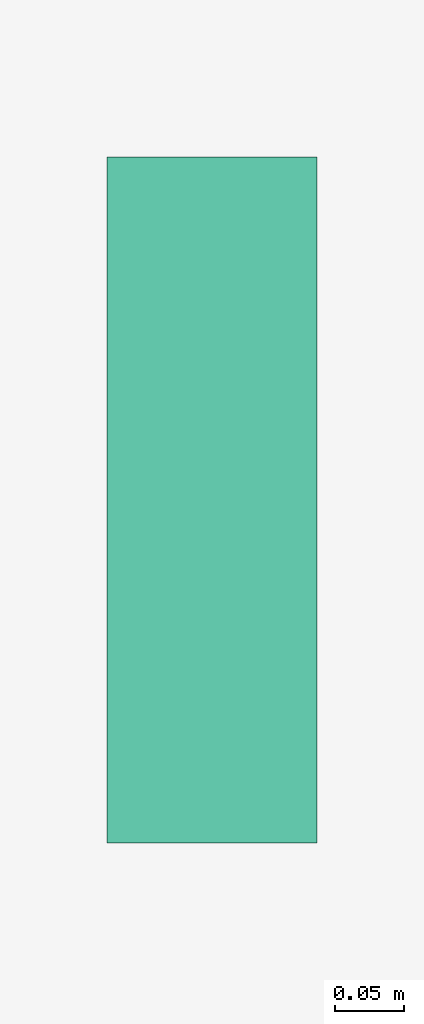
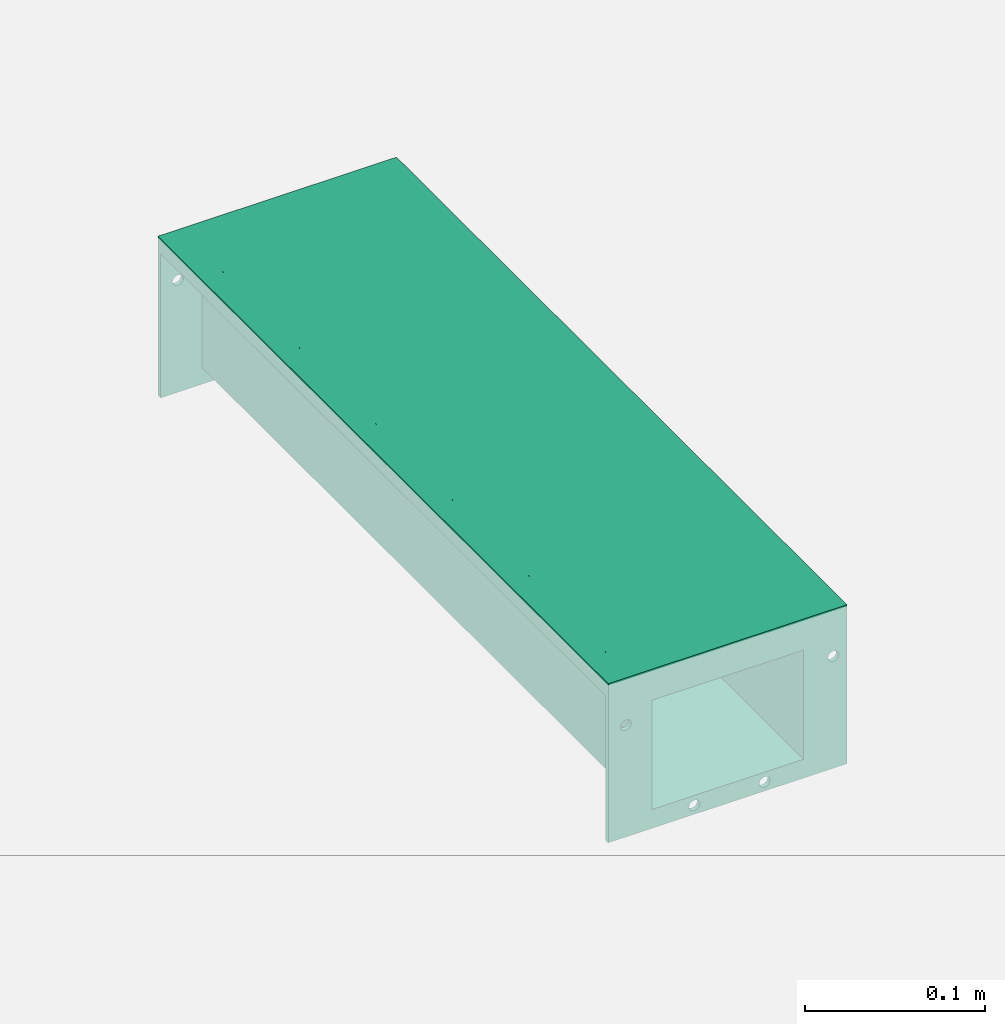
# One storey, part 2 of 2: 1 flow terminal.
"""IFC2X3 building model written with IfcOpenShell, lengths in millimetres."""

from ifc_helpers import new_model, entity, si_unit, converted_unit, direction, frame, frame_2d, origin, origin_2d_with_axis, place, context, subcontext, project, spatial, polyline, circle_curve, parameter, trimmed, segment, composite_curve, rectangle, outline, extrude, source, transform, mapped, material, material_list, element, save


model = new_model("IFC2X3")

# Units and contexts
model_context = context("Model", 3, precision=1e-06, world=origin(), true_north=direction((2.0, 6.12303176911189e-17, 1.0)))
context_of_model = context(None, 3, precision=1e-06, world=origin(), true_north=direction((2.0, 6.12303176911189e-17, 1.0)))
body_context = subcontext(model_context, "Body", "Model", "MODEL_VIEW")
ifc_project = project(units=[si_unit("LENGTHUNIT", "METRE", prefix="MILLI"), si_unit("AREAUNIT", "SQUARE_METRE", prefix="MILLI"), si_unit("VOLUMEUNIT", "CUBIC_METRE", prefix="MILLI"), converted_unit("PLANEANGLEUNIT", "DEGREE", entity("IfcRatioMeasure", 0.0174532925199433), si_unit("PLANEANGLEUNIT", "RADIAN"), dimensions=[0, 0, 0, 0, 0, 0, 0]), si_unit("TIMEUNIT", "SECOND")], contexts=[model_context, context_of_model])

# Site, building, storey
site_placement = place(None, origin())
site = spatial("IfcSite", under=ifc_project, at=site_placement, Name="Default", CompositionType="ELEMENT")
building_placement = place(site_placement, origin())
building = spatial("IfcBuilding", under=site, at=building_placement, CompositionType="ELEMENT")
storey_placement = place(building_placement, origin())
storey = spatial("IfcBuildingStorey", under=building, at=storey_placement, Name="Level 1", CompositionType="ELEMENT", Elevation=0.0)

# Flow terminal
ifc_material_1 = material(Name="Stainless Steel AISI 304")
ifc_material_2 = material(Name="Polystyrene, High Impact (F)")
ifc_material_list = material_list([ifc_material_1, ifc_material_2])
shared_shape = source(origin(), body_context, "Body", "SweptSolid", [
    extrude(rectangle(XDim=500.0, YDim=124.999917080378, at=origin_2d_with_axis()), frame((4.14598109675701e-05, 250.0, -21.0), z_axis=(0.0, 0.0, 1.0), x_axis=(0.0, 1.0, 0.0)), (0.0, 0.0, 1.0), 20.9999999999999),
    extrude(outline(polyline([(-76.5000276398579, -40.8000000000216), (-62.4999447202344, -40.8000000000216), (-62.4999447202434, -19.8000000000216), (-48.4999447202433, -19.8000000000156), (-48.499944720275, 54.1999999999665), (48.4999723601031, 54.200000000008), (48.4999723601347, -19.7999999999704), (62.4999723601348, -19.7999999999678), (62.4999723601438, -40.7999999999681), (76.4999723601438, -40.7999999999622), (76.4999723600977, 67.0), (-76.500027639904, 67.0), (-76.5000276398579, -40.8000000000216)]), holes=[composite_curve([segment(trimmed(circle_curve(frame_2d((67.7349848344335, -8.90142745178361), x_axis=(1.0, 0.0)), 3.5), [parameter(0.0)], [parameter(180.0)], True, "PARAMETER"), False, "CONTINUOUS"), segment(trimmed(circle_curve(frame_2d((67.7349848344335, -8.9014274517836), x_axis=(1.0, 0.0)), 3.5), [parameter(180.0)], [parameter(360.0)], True, "PARAMETER"), False, "CONTINUOUS")], self_intersect=False), composite_curve([segment(trimmed(circle_curve(frame_2d((23.7349848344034, 60.9218749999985), x_axis=(1.0, 0.0)), 3.5), [parameter(0.0)], [parameter(180.0)], True, "PARAMETER"), False, "CONTINUOUS"), segment(trimmed(circle_curve(frame_2d((23.7349848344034, 60.9218749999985), x_axis=(1.0, 0.0)), 3.5), [parameter(180.0)], [parameter(360.0)], True, "PARAMETER"), False, "CONTINUOUS")], self_intersect=False), composite_curve([segment(trimmed(circle_curve(frame_2d((-21.2650151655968, 60.921874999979), x_axis=(1.0, 0.0)), 3.5), [parameter(179.999999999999)], [parameter(360.0)], True, "PARAMETER"), False, "CONTINUOUS"), segment(trimmed(circle_curve(frame_2d((-21.2650151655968, 60.921874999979), x_axis=(1.0, 0.0)), 3.5), [parameter(360.0)], [parameter(180.0)], True, "PARAMETER"), False, "CONTINUOUS")], self_intersect=False), composite_curve([segment(trimmed(circle_curve(frame_2d((-65.2650151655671, -8.90142745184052), x_axis=(1.0, 0.0)), 3.5), [parameter(179.999999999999)], [parameter(360.0)], True, "PARAMETER"), False, "CONTINUOUS"), segment(trimmed(circle_curve(frame_2d((-65.2650151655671, -8.90142745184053), x_axis=(1.0, 0.0)), 3.5), [parameter(0.0)], [parameter(180.0)], True, "PARAMETER"), False, "CONTINUOUS")], self_intersect=False)]), frame((2.7639875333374e-05, 497.0, -40.8000000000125), z_axis=(0.0, 1.0, 0.0), x_axis=(1.0, 0.0, 0.0)), (0.0, 0.0, 1.0), 2.99999999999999),
    extrude(outline(polyline([(-76.4999585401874, -40.80000137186), (-62.4999585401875, -40.80000137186), (-62.4999585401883, -19.8000013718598), (-48.4999585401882, -19.8000013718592), (-48.4999585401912, 54.1999986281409), (48.4999585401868, 54.1999986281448), (48.4999585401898, -19.8000013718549), (62.4999585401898, -19.8000013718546), (62.4999585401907, -40.800001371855), (76.4999585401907, -40.8000013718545), (76.4999585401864, 67.0000068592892), (-76.4999585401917, 67.0000068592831), (-76.4999585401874, -40.80000137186)]), holes=[composite_curve([segment(trimmed(circle_curve(frame_2d((67.7349710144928, -8.9014288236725), x_axis=(1.0, 0.0)), 3.5), [parameter(0.0)], [parameter(180.0)], True, "PARAMETER"), False, "CONTINUOUS"), segment(trimmed(circle_curve(frame_2d((67.7349710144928, -8.90142882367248), x_axis=(1.0, 0.0)), 3.5), [parameter(180.0)], [parameter(0.0)], True, "PARAMETER"), False, "CONTINUOUS")], self_intersect=False), composite_curve([segment(trimmed(circle_curve(frame_2d((23.7349710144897, 60.9218818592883), x_axis=(1.0, 0.0)), 3.5), [parameter(0.0)], [parameter(180.0)], True, "PARAMETER"), False, "CONTINUOUS"), segment(trimmed(circle_curve(frame_2d((23.7349710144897, 60.9218818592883), x_axis=(1.0, 0.0)), 3.5), [parameter(180.0)], [parameter(359.999999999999)], True, "PARAMETER"), False, "CONTINUOUS")], self_intersect=False), composite_curve([segment(trimmed(circle_curve(frame_2d((-21.2650289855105, 60.9218818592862), x_axis=(1.0, 0.0)), 3.5), [parameter(180.0)], [parameter(360.0)], True, "PARAMETER"), False, "CONTINUOUS"), segment(trimmed(circle_curve(frame_2d((-21.2650289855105, 60.9218818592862), x_axis=(1.0, 0.0)), 3.5), [parameter(360.0)], [parameter(180.0)], True, "PARAMETER"), False, "CONTINUOUS")], self_intersect=False), composite_curve([segment(trimmed(circle_curve(frame_2d((-65.2650289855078, -8.90142882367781), x_axis=(1.0, 0.0)), 3.5), [parameter(180.0)], [parameter(0.0)], True, "PARAMETER"), False, "CONTINUOUS"), segment(trimmed(circle_curve(frame_2d((-65.2650289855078, -8.90142882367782), x_axis=(1.0, 0.0)), 3.5), [parameter(0.0)], [parameter(180.0)], True, "PARAMETER"), False, "CONTINUOUS")], self_intersect=False)]), frame((4.14598109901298e-05, 0.0, -40.8000013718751), z_axis=(0.0, 1.0, 0.0), x_axis=(1.0, 0.0, 0.0)), (0.0, 0.0, 1.0), 3.0),
    extrude(outline(polyline([(-25.1243423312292, -62.4999585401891), (-25.1243423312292, -76.499958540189), (-15.1243423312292, -76.499958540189), (-15.1243423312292, -74.999958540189), (-23.6243423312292, -74.999958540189), (-23.6243423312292, -63.9999585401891), (-2.62434233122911, -63.9999585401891), (-2.62434233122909, -49.999958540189), (71.3717116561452, -49.999958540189), (71.3717116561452, 49.999958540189), (-2.62434233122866, 49.999958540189), (-2.62434233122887, 63.999958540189), (-23.624342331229, 63.9999585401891), (-23.6243423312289, 74.9999585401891), (-15.1243423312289, 74.9999585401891), (-15.1243423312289, 76.4999585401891), (-25.1243423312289, 76.4999585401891), (-25.124342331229, 62.4999585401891), (-4.12434233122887, 62.499958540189), (-4.12434233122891, 48.499958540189), (69.8717116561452, 48.499958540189), (69.8717116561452, -48.499958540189), (-4.12434233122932, -48.499958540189), (-4.12434233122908, -62.4999585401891), (-25.1243423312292, -62.4999585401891)])), frame((4.14598110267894e-05, 3.0, -25.1282883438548), z_axis=(0.0, -1.0, 0.0), x_axis=(0.0, 0.0, -1.0)), (0.0, 0.0, -1.0), 494.0),
    extrude(rectangle(XDim=497.0, YDim=11.0, at=origin_2d_with_axis()), frame((69.5000000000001, 251.5, -10.0), z_axis=(0.0, 0.0, 1.0), x_axis=(0.0, 1.0, 0.0)), (0.0, 0.0, 1.0), 8.50000000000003),
    extrude(rectangle(XDim=497.0, YDim=10.9999999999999, at=origin_2d_with_axis()), frame((-69.499917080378, 251.5, -10.0), z_axis=(0.0, 0.0, 1.0), x_axis=(0.0, 1.0, 0.0)), (0.0, 0.0, 1.0), 8.50000000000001),
])
flow_terminal_placement = place(storey_placement, frame((-147.883287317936, -204.664192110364, 0.0)))
element("IfcFlowTerminal", 1, at=flow_terminal_placement, inside=storey, material=ifc_material_list, Name="ACO BD Modular 125 Level Invert Straight Channels:105122 - Straight Channel - 500mm LG - Invert Depth 95mm:105122 - Straight Channel - 500mm LG - Invert Depth 95mm", ObjectType="105122 - Straight Channel - 500mm LG - Invert Depth 95mm", context=body_context, shape_type="MappedRepresentation", body=[
    mapped(shared_shape, transform((0.0, 0.0, 0.0), scale=1.0)),
])

save(model, "model.ifc")
